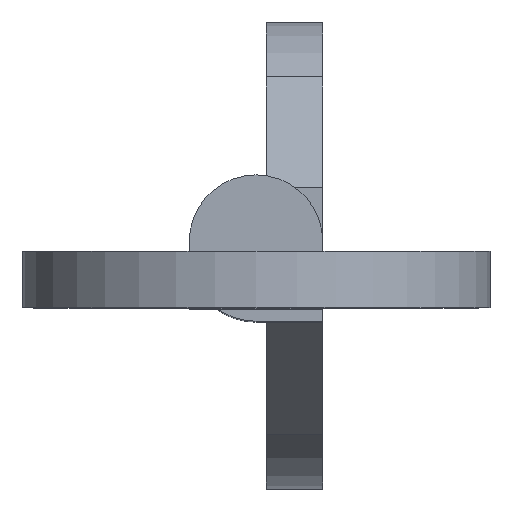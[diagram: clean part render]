
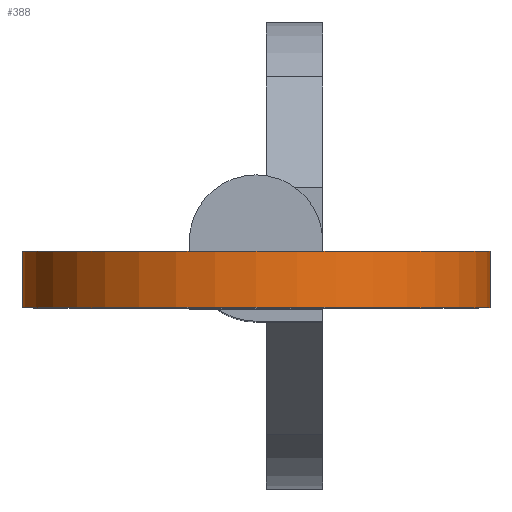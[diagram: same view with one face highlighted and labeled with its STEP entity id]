
A CAD part, top view. The second image highlights one B-rep face of the part: STEP entity #388.
In plain terms, the highlighted cylindrical face has radius 4.19 mm (diameter 8.38 mm), a partial arc.
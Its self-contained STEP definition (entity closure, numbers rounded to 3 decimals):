
#7 = CARTESIAN_POINT ( 'NONE',  ( 0., -0.185, 76.2 ) ) ;
#34 = CARTESIAN_POINT ( 'NONE',  ( 3.202, -0.185, 73.497 ) ) ;
#59 = CARTESIAN_POINT ( 'NONE',  ( 0., -0.185, 76.2 ) ) ;
#72 = CYLINDRICAL_SURFACE ( 'NONE', #172, 4.19 ) ;
#86 = ORIENTED_EDGE ( 'NONE', *, *, #165, .F. ) ;
#116 = VERTEX_POINT ( 'NONE', #854 ) ;
#120 = CARTESIAN_POINT ( 'NONE',  ( 3.202, -1.195, 73.497 ) ) ;
#122 = EDGE_CURVE ( 'NONE', #116, #252, #713, .T. ) ;
#132 = ORIENTED_EDGE ( 'NONE', *, *, #122, .T. ) ;
#139 = CARTESIAN_POINT ( 'NONE',  ( 0., -1.195, 76.2 ) ) ;
#154 = ORIENTED_EDGE ( 'NONE', *, *, #647, .T. ) ;
#165 = EDGE_CURVE ( 'NONE', #855, #196, #644, .T. ) ;
#170 = ORIENTED_EDGE ( 'NONE', *, *, #832, .F. ) ;
#172 = AXIS2_PLACEMENT_3D ( 'NONE', #7, #200, #257 ) ;
#196 = VERTEX_POINT ( 'NONE', #120 ) ;
#200 = DIRECTION ( 'NONE',  ( 0., -1., 0. ) ) ;
#252 = VERTEX_POINT ( 'NONE', #655 ) ;
#257 = DIRECTION ( 'NONE',  ( 0., 0., -1. ) ) ;
#291 = DIRECTION ( 'NONE',  ( 0., -1., 0. ) ) ;
#312 = AXIS2_PLACEMENT_3D ( 'NONE', #139, #752, #689 ) ;
#370 = CARTESIAN_POINT ( 'NONE',  ( -3.202, -0.185, 73.497 ) ) ;
#388 = ADVANCED_FACE ( 'NONE', ( #615 ), #72, .T. ) ;
#390 = EDGE_LOOP ( 'NONE', ( #170, #86, #154, #132 ) ) ;
#396 = CARTESIAN_POINT ( 'NONE',  ( 3.202, -0.185, 73.497 ) ) ;
#401 = CIRCLE ( 'NONE', #312, 4.19 ) ;
#428 = VECTOR ( 'NONE', #291, 1000. ) ;
#500 = DIRECTION ( 'NONE',  ( 0., 0., -1. ) ) ;
#514 = DIRECTION ( 'NONE',  ( 0., -1., 0. ) ) ;
#549 = CIRCLE ( 'NONE', #608, 4.19 ) ;
#608 = AXIS2_PLACEMENT_3D ( 'NONE', #59, #860, #500 ) ;
#615 = FACE_OUTER_BOUND ( 'NONE', #390, .T. ) ;
#644 = LINE ( 'NONE', #34, #428 ) ;
#647 = EDGE_CURVE ( 'NONE', #855, #116, #549, .T. ) ;
#655 = CARTESIAN_POINT ( 'NONE',  ( -3.202, -1.195, 73.497 ) ) ;
#689 = DIRECTION ( 'NONE',  ( 0., 0., -1. ) ) ;
#713 = LINE ( 'NONE', #370, #760 ) ;
#752 = DIRECTION ( 'NONE',  ( 0., -1., 0. ) ) ;
#760 = VECTOR ( 'NONE', #514, 1000. ) ;
#832 = EDGE_CURVE ( 'NONE', #196, #252, #401, .T. ) ;
#854 = CARTESIAN_POINT ( 'NONE',  ( -3.202, -0.185, 73.497 ) ) ;
#855 = VERTEX_POINT ( 'NONE', #396 ) ;
#860 = DIRECTION ( 'NONE',  ( 0., -1., 0. ) ) ;
